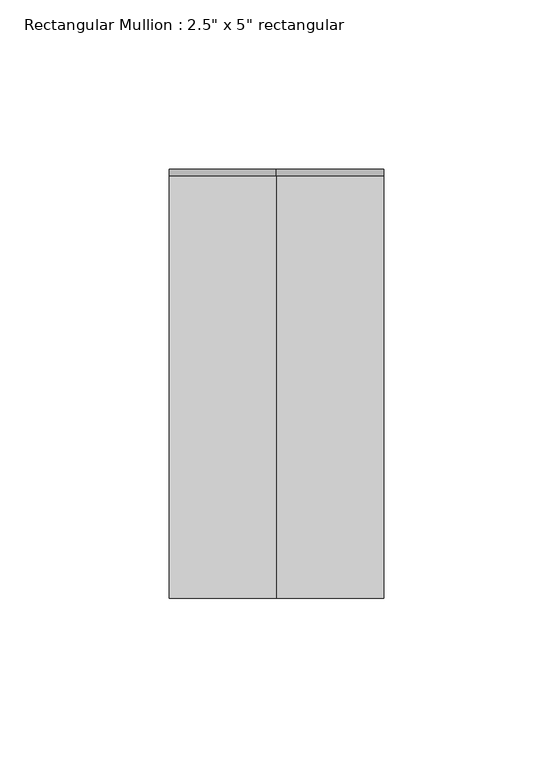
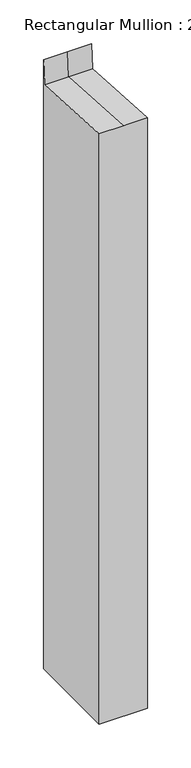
"""IFC4 building model written with IfcOpenShell, lengths in millimetres: member geometry."""

from ifc_helpers import new_model, si_unit, origin, place, context, project, spatial, faceted_brep, source, transform, mapped, element, save


def member_1fc1b455(model_context):
    return source(origin(), model_context, "Body", "Brep", [
        faceted_brep([(31.75, 63.5, -819.15), (31.75, -63.5, -819.15), (-31.75, -63.5, -819.15), (-31.75, 63.5, -819.15), (-31.75, 63.5, 29.7846233), (0.0, 63.5, 29.7846233), (31.75, 63.5, 29.7846233), (-31.75, -63.5, 3.8736342), (-31.75, 61.4149606, -3.8662198), (31.75, -63.5, 3.8736342), (0.0, -63.5, 3.8736342), (31.75, 61.4149606, -3.8662198), (0.0, 61.4149606, -3.8662198)], [[[0, 1, 2, 3]], [[4, 5, 6, 0, 3]], [[7, 8, 4, 3, 2]], [[9, 10, 7, 2, 1]], [[6, 11, 9, 1, 0]], [[6, 5, 12, 11]], [[5, 4, 8, 12]], [[8, 7, 10, 12]], [[10, 9, 11, 12]]]),
    ])


if __name__ == "__main__":
    model = new_model("IFC4")
    model_context = context("Model", 3, world=origin())
    ifc_project = project(units=[si_unit("LENGTHUNIT", "METRE", prefix="MILLI")], contexts=[model_context])
    site = spatial("IfcSite", under=ifc_project)
    building = spatial("IfcBuilding", under=site)
    placement = place(None, origin())
    member_shape = member_1fc1b455(model_context)
    element("IfcMember", 1, ObjectType="Rectangular Mullion : 2.5\" x 5\" rectangular", at=placement, inside=building, context=model_context, shape_type="MappedRepresentation", body=[
        mapped(member_shape, transform((0.0, 0.0, 0.0), x_axis=(1.0, 0.0, 0.0), y_axis=(0.0, 1.0, 0.0), z_axis=(0.0, 0.0, 1.0))),
    ])
    save(model, "model.ifc")
